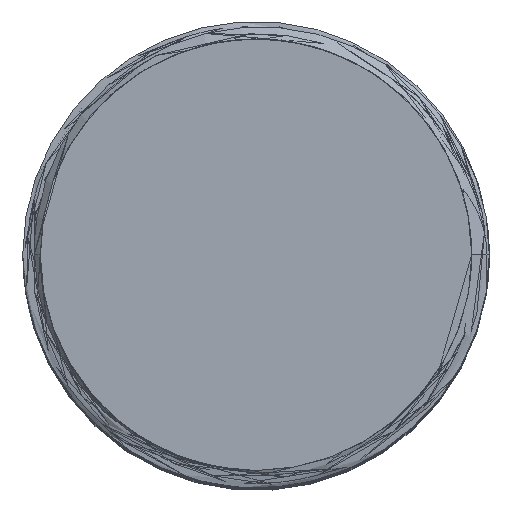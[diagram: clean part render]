
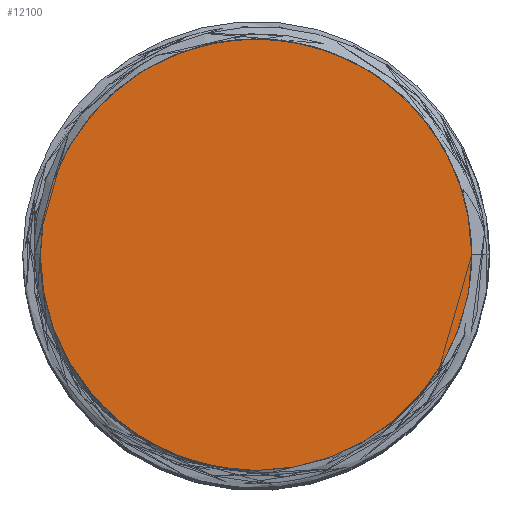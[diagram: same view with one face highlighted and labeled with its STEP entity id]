
A CAD part, top view. The second image highlights one B-rep face of the part: STEP entity #12100.
In plain terms, the highlighted planar face has unit normal (0, 0, 1).
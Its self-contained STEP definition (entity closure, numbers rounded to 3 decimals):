
#378 = CARTESIAN_POINT ( 'NONE',  ( -19.037, 25.055, 20. ) ) ;
#426 = CIRCLE ( 'NONE', #8274, 5.55 ) ;
#1628 = DIRECTION ( 'NONE',  ( 1., 0., 0. ) ) ;
#2084 = AXIS2_PLACEMENT_3D ( 'NONE', #9450, #8598, #1628 ) ;
#2334 = DIRECTION ( 'NONE',  ( 0., 0., 1. ) ) ;
#3385 = AXIS2_PLACEMENT_3D ( 'NONE', #3411, #4433, #4309 ) ;
#3411 = CARTESIAN_POINT ( 'NONE',  ( -19.037, 25.055, 20. ) ) ;
#4309 = DIRECTION ( 'NONE',  ( 1., 0., 0. ) ) ;
#4433 = DIRECTION ( 'NONE',  ( 0., 0., 1. ) ) ;
#4727 = FACE_OUTER_BOUND ( 'NONE', #6733, .T. ) ;
#5027 = CIRCLE ( 'NONE', #3385, 5.55 ) ;
#5645 = PLANE ( 'NONE',  #2084 ) ;
#6733 = EDGE_LOOP ( 'NONE', ( #11639, #7050 ) ) ;
#7050 = ORIENTED_EDGE ( 'NONE', *, *, #10197, .T. ) ;
#7644 = CARTESIAN_POINT ( 'NONE',  ( -24.587, 25.055, 20. ) ) ;
#7885 = VERTEX_POINT ( 'NONE', #7644 ) ;
#8274 = AXIS2_PLACEMENT_3D ( 'NONE', #378, #2334, #10081 ) ;
#8598 = DIRECTION ( 'NONE',  ( 0., 0., 1. ) ) ;
#9450 = CARTESIAN_POINT ( 'NONE',  ( -19.037, 25.055, 20. ) ) ;
#10081 = DIRECTION ( 'NONE',  ( 1., 0., 0. ) ) ;
#10197 = EDGE_CURVE ( 'NONE', #7885, #10613, #5027, .T. ) ;
#10613 = VERTEX_POINT ( 'NONE', #12780 ) ;
#11639 = ORIENTED_EDGE ( 'NONE', *, *, #12378, .T. ) ;
#12100 = ADVANCED_FACE ( 'NONE', ( #4727 ), #5645, .T. ) ;
#12378 = EDGE_CURVE ( 'NONE', #10613, #7885, #426, .T. ) ;
#12780 = CARTESIAN_POINT ( 'NONE',  ( -13.487, 25.055, 20. ) ) ;
